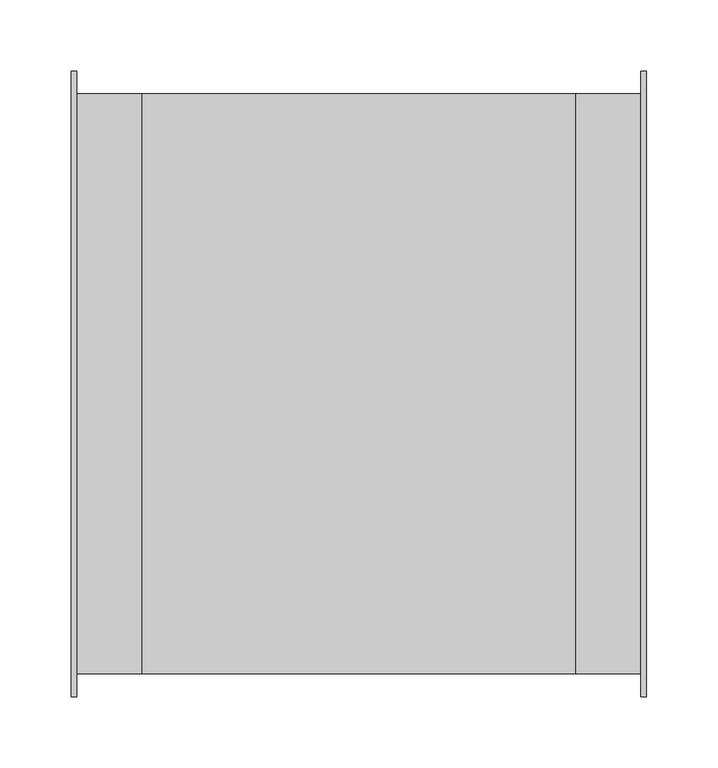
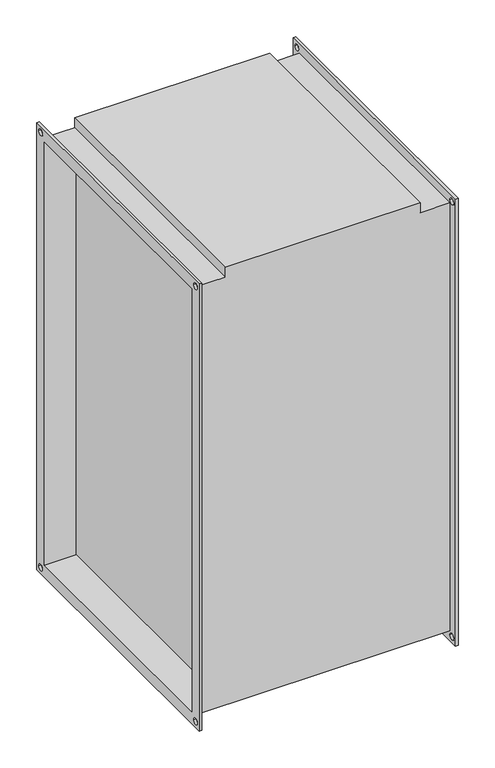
"""IFC4 building model written with IfcOpenShell, lengths in millimetres: proxy geometry, СВ_ВоздухонагревательЭлектрический_КанальныйПрямоугольный_200-1000_SPH-E : SPH-E-700x400/15."""

from ifc_helpers import new_model, si_unit, frame, origin, place, context, project, spatial, polyline, circle_curve, source, transform, mapped, element, save
from ifc_brep_helpers import plane_surface, revolved_surface, advanced_brep


def mechanical_equipment_9a9d5098(model_context):
    return source(origin(), model_context, "Body", "AdvancedBrep", [
        advanced_brep(
        [(-152.5, -204.0, 354.0), (-198.5, -204.0, 354.0), (-198.5, -204.0, -354.0), (198.5, -204.0, -354.0), (198.5, -204.0, 354.0), (152.5, -204.0, 354.0), (152.5, -204.0, 370.0), (-152.5, -204.0, 370.0), (-198.5, 204.0, -354.0), (198.5, 204.0, -354.0), (-198.5, 204.0, 354.0), (-152.5, 204.0, 354.0), (-152.5, 204.0, 370.0), (152.5, 204.0, 370.0), (152.5, 204.0, 354.0), (198.5, 204.0, 354.0), (152.5, 200.0, -350.0), (152.5, 200.0, 350.0), (152.5, -200.0, 350.0), (152.5, -200.0, -350.0), (-152.5, -200.0, 350.0), (-152.5, 200.0, 350.0), (-152.5, 200.0, -350.0), (-152.5, -200.0, -350.0), (-202.5, -220.0, 370.0), (-202.5, 220.0, 370.0), (-202.5, 220.0, -370.0), (-202.5, -220.0, -370.0), (-202.5, -200.0, 350.0), (-202.5, -200.0, -350.0), (-202.5, 200.0, -350.0), (-202.5, 200.0, 350.0), (-202.5, 205.0, 360.0), (-202.5, 215.0, 360.0), (-202.5, -215.0, 360.0), (-202.5, -205.0, 360.0), (-202.5, -215.0, -360.0), (-202.5, -205.0, -360.0), (-202.5, 205.0, -360.0), (-202.5, 215.0, -360.0), (-198.5, -220.0, 370.0), (-198.5, -220.0, -370.0), (-198.5, 220.0, -370.0), (-198.5, 220.0, 370.0), (-198.5, 215.0, 360.0), (-198.5, 205.0, 360.0), (-198.5, -205.0, 360.0), (-198.5, -215.0, 360.0), (-198.5, -205.0, -360.0), (-198.5, -215.0, -360.0), (-198.5, 215.0, -360.0), (-198.5, 205.0, -360.0), (198.5, 220.0, 370.0), (198.5, 220.0, -370.0), (198.5, -220.0, -370.0), (198.5, -220.0, 370.0), (198.5, 205.0, 360.0), (198.5, 215.0, 360.0), (198.5, -215.0, 360.0), (198.5, -205.0, 360.0), (198.5, -215.0, -360.0), (198.5, -205.0, -360.0), (198.5, 205.0, -360.0), (198.5, 215.0, -360.0), (202.5, 220.0, 370.0), (202.5, -220.0, 370.0), (202.5, -220.0, -370.0), (202.5, 220.0, -370.0), (202.5, 200.0, 350.0), (202.5, 200.0, -350.0), (202.5, -200.0, -350.0), (202.5, -200.0, 350.0), (202.5, 215.0, 360.0), (202.5, 205.0, 360.0), (202.5, -205.0, 360.0), (202.5, -215.0, 360.0), (202.5, -205.0, -360.0), (202.5, -215.0, -360.0), (202.5, 215.0, -360.0), (202.5, 205.0, -360.0)],
        [
            (0, 1),
            (1, 2),
            (2, 3),
            (3, 4),
            (4, 5),
            (5, 6),
            (6, 7),
            (7, 0),
            (2, 8),
            (8, 9),
            (9, 3),
            (10, 11),
            (11, 12),
            (12, 13),
            (13, 14),
            (14, 15),
            (15, 9),
            (8, 10),
            (0, 11),
            (10, 1),
            (13, 6),
            (5, 14),
            (16, 17),
            (17, 18),
            (18, 19),
            (19, 16),
            (7, 12),
            (20, 21),
            (21, 22),
            (22, 23),
            (23, 20),
            (4, 15),
            (24, 25),
            (25, 26),
            (26, 27),
            (27, 24),
            (28, 29),
            (29, 30),
            (30, 31),
            (31, 28),
            (32, 33, circle_curve(frame((-202.5, 210.0, 360.0), z_axis=(1.0, 0.0, 0.0), x_axis=(0.0, 1.0, 0.0)), 5.0)),
            (33, 32, circle_curve(frame((-202.5, 210.0, 360.0), z_axis=(1.0, 0.0, 0.0), x_axis=(0.0, 1.0, 0.0)), 5.0)),
            (34, 35, circle_curve(frame((-202.5, -210.0, 360.0), z_axis=(1.0, 0.0, 0.0), x_axis=(0.0, 1.0, 0.0)), 5.0)),
            (35, 34, circle_curve(frame((-202.5, -210.0, 360.0), z_axis=(1.0, 0.0, 0.0), x_axis=(0.0, 1.0, 0.0)), 5.0)),
            (36, 37, circle_curve(frame((-202.5, -210.0, -360.0), z_axis=(1.0, 0.0, 0.0), x_axis=(0.0, 1.0, 0.0)), 5.0)),
            (37, 36, circle_curve(frame((-202.5, -210.0, -360.0), z_axis=(1.0, 0.0, 0.0), x_axis=(0.0, 1.0, 0.0)), 5.0)),
            (38, 39, circle_curve(frame((-202.5, 210.0, -360.0), z_axis=(1.0, 0.0, 0.0), x_axis=(0.0, 1.0, 0.0)), 5.0)),
            (39, 38, circle_curve(frame((-202.5, 210.0, -360.0), z_axis=(1.0, 0.0, 0.0), x_axis=(0.0, 1.0, 0.0)), 5.0)),
            (40, 41),
            (41, 42),
            (42, 43),
            (43, 40),
            (44, 45, circle_curve(frame((-198.5, 210.0, 360.0), z_axis=(-1.0, 0.0, 0.0), x_axis=(0.0, 1.0, 0.0)), 5.0)),
            (45, 44, circle_curve(frame((-198.5, 210.0, 360.0), z_axis=(-1.0, 0.0, 0.0), x_axis=(0.0, 1.0, 0.0)), 5.0)),
            (46, 47, circle_curve(frame((-198.5, -210.0, 360.0), z_axis=(-1.0, 0.0, 0.0), x_axis=(0.0, 1.0, 0.0)), 5.0)),
            (47, 46, circle_curve(frame((-198.5, -210.0, 360.0), z_axis=(-1.0, 0.0, 0.0), x_axis=(0.0, 1.0, 0.0)), 5.0)),
            (48, 49, circle_curve(frame((-198.5, -210.0, -360.0), z_axis=(-1.0, 0.0, 0.0), x_axis=(0.0, 1.0, 0.0)), 5.0)),
            (49, 48, circle_curve(frame((-198.5, -210.0, -360.0), z_axis=(-1.0, 0.0, 0.0), x_axis=(0.0, 1.0, 0.0)), 5.0)),
            (50, 51, circle_curve(frame((-198.5, 210.0, -360.0), z_axis=(-1.0, 0.0, 0.0), x_axis=(0.0, 1.0, 0.0)), 5.0)),
            (51, 50, circle_curve(frame((-198.5, 210.0, -360.0), z_axis=(-1.0, 0.0, 0.0), x_axis=(0.0, 1.0, 0.0)), 5.0)),
            (27, 41),
            (40, 24),
            (26, 42),
            (25, 43),
            (52, 53),
            (53, 54),
            (54, 55),
            (55, 52),
            (56, 57, circle_curve(frame((198.5, 210.0, 360.0), z_axis=(1.0, 0.0, 0.0), x_axis=(0.0, 1.0, 0.0)), 5.0)),
            (57, 56, circle_curve(frame((198.5, 210.0, 360.0), z_axis=(1.0, 0.0, 0.0), x_axis=(0.0, 1.0, 0.0)), 5.0)),
            (58, 59, circle_curve(frame((198.5, -210.0, 360.0), z_axis=(1.0, 0.0, 0.0), x_axis=(0.0, 1.0, 0.0)), 5.0)),
            (59, 58, circle_curve(frame((198.5, -210.0, 360.0), z_axis=(1.0, 0.0, 0.0), x_axis=(0.0, 1.0, 0.0)), 5.0)),
            (60, 61, circle_curve(frame((198.5, -210.0, -360.0), z_axis=(1.0, 0.0, 0.0), x_axis=(0.0, 1.0, 0.0)), 5.0)),
            (61, 60, circle_curve(frame((198.5, -210.0, -360.0), z_axis=(1.0, 0.0, 0.0), x_axis=(0.0, 1.0, 0.0)), 5.0)),
            (62, 63, circle_curve(frame((198.5, 210.0, -360.0), z_axis=(1.0, 0.0, 0.0), x_axis=(0.0, 1.0, 0.0)), 5.0)),
            (63, 62, circle_curve(frame((198.5, 210.0, -360.0), z_axis=(1.0, 0.0, 0.0), x_axis=(0.0, 1.0, 0.0)), 5.0)),
            (64, 65),
            (65, 66),
            (66, 67),
            (67, 64),
            (68, 69),
            (69, 70),
            (70, 71),
            (71, 68),
            (72, 73, circle_curve(frame((202.5, 210.0, 360.0), z_axis=(-1.0, 0.0, 0.0), x_axis=(0.0, 1.0, 0.0)), 5.0)),
            (73, 72, circle_curve(frame((202.5, 210.0, 360.0), z_axis=(-1.0, 0.0, 0.0), x_axis=(0.0, 1.0, 0.0)), 5.0)),
            (74, 75, circle_curve(frame((202.5, -210.0, 360.0), z_axis=(-1.0, 0.0, 0.0), x_axis=(0.0, 1.0, 0.0)), 5.0)),
            (75, 74, circle_curve(frame((202.5, -210.0, 360.0), z_axis=(-1.0, 0.0, 0.0), x_axis=(0.0, 1.0, 0.0)), 5.0)),
            (76, 77, circle_curve(frame((202.5, -210.0, -360.0), z_axis=(-1.0, 0.0, 0.0), x_axis=(0.0, 1.0, 0.0)), 5.0)),
            (77, 76, circle_curve(frame((202.5, -210.0, -360.0), z_axis=(-1.0, 0.0, 0.0), x_axis=(0.0, 1.0, 0.0)), 5.0)),
            (78, 79, circle_curve(frame((202.5, 210.0, -360.0), z_axis=(-1.0, 0.0, 0.0), x_axis=(0.0, 1.0, 0.0)), 5.0)),
            (79, 78, circle_curve(frame((202.5, 210.0, -360.0), z_axis=(-1.0, 0.0, 0.0), x_axis=(0.0, 1.0, 0.0)), 5.0)),
            (55, 65),
            (64, 52),
            (54, 66),
            (53, 67),
            (31, 21),
            (20, 28),
            (30, 22),
            (29, 23),
            (68, 17),
            (16, 69),
            (19, 70),
            (18, 71),
            (32, 45),
            (44, 33),
            (56, 73),
            (72, 57),
            (34, 47),
            (46, 35),
            (58, 75),
            (74, 59),
            (36, 49),
            (48, 37),
            (60, 77),
            (76, 61),
            (38, 51),
            (50, 39),
            (62, 79),
            (78, 63),
        ],
        [
            plane_surface(frame((-152.5, -204.0, 354.0), z_axis=(0.0, -1.0, 0.0), x_axis=(-1.0, 0.0, 0.0))),
            plane_surface(frame((-152.5, -204.0, -354.0), z_axis=(0.0, 0.0, -1.0), x_axis=(-1.0, 0.0, 0.0))),
            plane_surface(frame((-152.5, 204.0, -354.0), z_axis=(0.0, 1.0, 0.0), x_axis=(-1.0, 0.0, 0.0))),
            plane_surface(frame((-152.5, 204.0, 354.0), z_axis=(0.0, 0.0, 1.0), x_axis=(-1.0, 0.0, 0.0))),
            plane_surface(frame((152.5, -204.0, 370.0), z_axis=(1.0, 0.0, 0.0), x_axis=(0.0, 0.0, -1.0))),
            plane_surface(frame((-152.5, -204.0, 370.0), z_axis=(-1.0, 0.0, 0.0), x_axis=(0.0, 0.0, 1.0))),
            plane_surface(frame((152.5, 204.0, 370.0), z_axis=(0.0, 0.0, 1.0), x_axis=(-1.0, 0.0, 0.0))),
            plane_surface(frame((198.5, 204.0, 354.0), z_axis=(0.0, 0.0, 1.0), x_axis=(-1.0, 0.0, 0.0))),
            plane_surface(frame((-202.5, -220.0, 370.0), z_axis=(-1.0, 0.0, 0.0), x_axis=(0.0, 0.0, 1.0))),
            plane_surface(frame((-198.5, -220.0, 370.0), z_axis=(1.0, 0.0, 0.0), x_axis=(0.0, 0.0, -1.0))),
            plane_surface(frame((-198.5, -220.0, 370.0), z_axis=(0.0, -1.0, 0.0), x_axis=(-1.0, 0.0, 0.0))),
            plane_surface(frame((-198.5, -220.0, -370.0), z_axis=(0.0, 0.0, -1.0), x_axis=(-1.0, 0.0, 0.0))),
            plane_surface(frame((-198.5, 220.0, -370.0), z_axis=(0.0, 1.0, 0.0), x_axis=(-1.0, 0.0, 0.0))),
            plane_surface(frame((-198.5, 220.0, 370.0), z_axis=(0.0, 0.0, 1.0), x_axis=(-1.0, 0.0, 0.0))),
            plane_surface(frame((198.5, 200.0, -350.0), z_axis=(-1.0, 0.0, 0.0), x_axis=(0.0, 0.0, 1.0))),
            plane_surface(frame((202.5, 200.0, -350.0), z_axis=(1.0, 0.0, 0.0), x_axis=(0.0, 0.0, -1.0))),
            plane_surface(frame((202.5, 220.0, 370.0), z_axis=(0.0, 0.0, 1.0), x_axis=(-1.0, 0.0, 0.0))),
            plane_surface(frame((202.5, -220.0, 370.0), z_axis=(0.0, -1.0, 0.0), x_axis=(-1.0, 0.0, 0.0))),
            plane_surface(frame((202.5, -220.0, -370.0), z_axis=(0.0, 0.0, -1.0), x_axis=(-1.0, 0.0, 0.0))),
            plane_surface(frame((202.5, 220.0, -370.0), z_axis=(0.0, 1.0, 0.0), x_axis=(-1.0, 0.0, 0.0))),
            plane_surface(frame((-198.5, -200.0, 350.0), z_axis=(0.0, 0.0, -1.0), x_axis=(-1.0, 0.0, 0.0))),
            plane_surface(frame((-198.5, 200.0, 350.0), z_axis=(0.0, -1.0, 0.0), x_axis=(-1.0, 0.0, 0.0))),
            plane_surface(frame((-198.5, 200.0, -350.0), z_axis=(0.0, 0.0, 1.0), x_axis=(-1.0, 0.0, 0.0))),
            plane_surface(frame((-198.5, -200.0, -350.0), z_axis=(0.0, 1.0, 0.0), x_axis=(-1.0, 0.0, 0.0))),
            plane_surface(frame((202.5, 200.0, 350.0), z_axis=(0.0, -1.0, 0.0), x_axis=(-1.0, 0.0, 0.0))),
            plane_surface(frame((202.5, 200.0, -350.0), z_axis=(0.0, 0.0, 1.0), x_axis=(-1.0, 0.0, 0.0))),
            plane_surface(frame((202.5, -200.0, -350.0), z_axis=(0.0, 1.0, 0.0), x_axis=(-1.0, 0.0, 0.0))),
            plane_surface(frame((202.5, -200.0, 350.0), z_axis=(0.0, 0.0, -1.0), x_axis=(-1.0, 0.0, 0.0))),
            revolved_surface(polyline([(-198.5, 215.0, 360.0), (-202.5, 215.0, 360.0)]), (-202.5, 210.0, 360.0), (1.0, 0.0, 0.0)),
            revolved_surface(polyline([(202.5, 215.0, 360.0), (198.5, 215.0, 360.0)]), (-202.5, 210.0, 360.0), (1.0, 0.0, 0.0)),
            revolved_surface(polyline([(-198.5, -205.0, 360.0), (-202.5, -205.0, 360.0)]), (0.0, -210.0, 360.0), (1.0, 0.0, 0.0)),
            revolved_surface(polyline([(202.5, -205.0, 360.0), (198.5, -205.0, 360.0)]), (0.0, -210.0, 360.0), (1.0, 0.0, 0.0)),
            revolved_surface(polyline([(-198.5, -205.0, -360.0), (-202.5, -205.0, -360.0)]), (0.0, -210.0, -360.0), (1.0, 0.0, 0.0)),
            revolved_surface(polyline([(202.5, -205.0, -360.0), (198.5, -205.0, -360.0)]), (0.0, -210.0, -360.0), (1.0, 0.0, 0.0)),
            revolved_surface(polyline([(-198.5, 215.0, -360.0), (-202.5, 215.0, -360.0)]), (0.0, 210.0, -360.0), (1.0, 0.0, 0.0)),
            revolved_surface(polyline([(202.5, 215.0, -360.0), (198.5, 215.0, -360.0)]), (0.0, 210.0, -360.0), (1.0, 0.0, 0.0)),
        ],
        [
            (0, [[1, 2, 3, 4, 5, 6, 7, 8]]),
            (1, [[-3, 9, 10, 11]]),
            (2, [[12, 13, 14, 15, 16, 17, -10, 18]]),
            (3, [[-1, 19, -12, 20]]),
            (4, [[21, -6, 22, -15]]),
            (4, [[23, 24, 25, 26]]),
            (5, [[27, -13, -19, -8]]),
            (5, [[28, 29, 30, 31]]),
            (6, [[-21, -14, -27, -7]]),
            (7, [[-5, 32, -16, -22]]),
            (8, [[33, 34, 35, 36], [37, 38, 39, 40], [41, 42], [43, 44], [45, 46], [47, 48]]),
            (9, [[49, 50, 51, 52], [-2, -20, -18, -9], [53, 54], [55, 56], [57, 58], [59, 60]]),
            (10, [[-36, 61, -49, 62]]),
            (11, [[-35, 63, -50, -61]]),
            (12, [[-34, 64, -51, -63]]),
            (13, [[-33, -62, -52, -64]]),
            (14, [[65, 66, 67, 68], [-4, -11, -17, -32], [69, 70], [71, 72], [73, 74], [75, 76]]),
            (15, [[77, 78, 79, 80], [81, 82, 83, 84], [85, 86], [87, 88], [89, 90], [91, 92]]),
            (16, [[-68, 93, -77, 94]]),
            (17, [[-67, 95, -78, -93]]),
            (18, [[-66, 96, -79, -95]]),
            (19, [[-65, -94, -80, -96]]),
            (20, [[-40, 97, -28, 98]]),
            (21, [[-39, 99, -29, -97]]),
            (22, [[-38, 100, -30, -99]]),
            (23, [[-37, -98, -31, -100]]),
            (24, [[-81, 101, -23, 102]]),
            (25, [[-82, -102, -26, 103]]),
            (26, [[-83, -103, -25, 104]]),
            (27, [[-101, -84, -104, -24]]),
            (28, [[105, -53, 106, -41]]),
            (29, [[107, -85, 108, -69]]),
            (28, [[-105, -42, -106, -54]]),
            (29, [[-107, -70, -108, -86]]),
            (30, [[109, -55, 110, -43]]),
            (31, [[111, -87, 112, -71]]),
            (30, [[-109, -44, -110, -56]]),
            (31, [[-111, -72, -112, -88]]),
            (32, [[113, -57, 114, -45]]),
            (33, [[115, -89, 116, -73]]),
            (32, [[-113, -46, -114, -58]]),
            (33, [[-115, -74, -116, -90]]),
            (34, [[117, -59, 118, -47]]),
            (35, [[119, -91, 120, -75]]),
            (34, [[-117, -48, -118, -60]]),
            (35, [[-119, -76, -120, -92]]),
        ],
    ),
    ])


if __name__ == "__main__":
    model = new_model("IFC4")
    model_context = context("Model", 3, world=origin())
    ifc_project = project(units=[si_unit("LENGTHUNIT", "METRE", prefix="MILLI")], contexts=[model_context])
    site = spatial("IfcSite", under=ifc_project)
    building = spatial("IfcBuilding", under=site)
    placement = place(None, origin())
    mechanical_equipment_shape = mechanical_equipment_9a9d5098(model_context)
    element("IfcBuildingElementProxy", 1, Name="СВ_ВоздухонагревательЭлектрический_КанальныйПрямоугольный_200-1000_SPH-E : SPH-E-700x400/15", ObjectType="СВ_ВоздухонагревательЭлектрический_КанальныйПрямоугольный_200-1000_SPH-E : SPH-E-700x400/15", at=placement, inside=building, context=model_context, shape_type="MappedRepresentation", body=[
        mapped(mechanical_equipment_shape, transform((0.0, 0.0, 0.0), x_axis=(1.0, 0.0, 0.0), y_axis=(0.0, 1.0, 0.0), z_axis=(0.0, 0.0, 1.0))),
    ])
    save(model, "model.ifc")
